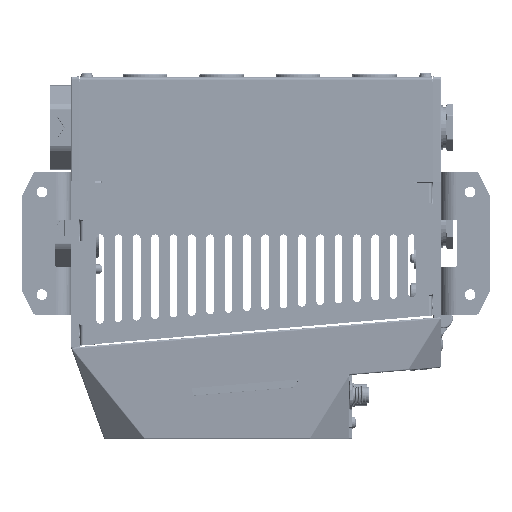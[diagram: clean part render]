
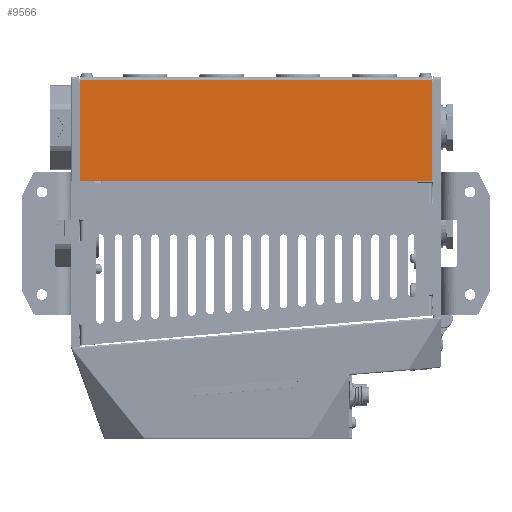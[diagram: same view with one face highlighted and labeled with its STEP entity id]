
A CAD part, left-side view. The second image highlights one B-rep face of the part: STEP entity #9566.
In plain terms, the highlighted planar face has unit normal (-1, 0, 0) as drawn and (0, -1, 0) by its records, which use the part's own axes.
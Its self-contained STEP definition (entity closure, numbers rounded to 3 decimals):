
#4104 = VECTOR ( 'NONE', #30052, 1000. ) ;
#9566 = ADVANCED_FACE ( 'NONE', ( #98870 ), #73887, .T. ) ;
#12485 = VERTEX_POINT ( 'NONE', #268266 ) ;
#15247 = VECTOR ( 'NONE', #314460, 1000. ) ;
#25626 = DIRECTION ( 'NONE',  ( 0., -1., 0. ) ) ;
#26007 = CIRCLE ( 'NONE', #202544, 1. ) ;
#26241 = VERTEX_POINT ( 'NONE', #43102 ) ;
#27774 = LINE ( 'NONE', #245137, #76926 ) ;
#30052 = DIRECTION ( 'NONE',  ( -1., 0., 0. ) ) ;
#38288 = CARTESIAN_POINT ( 'NONE',  ( -2., -84., -115. ) ) ;
#43102 = CARTESIAN_POINT ( 'NONE',  ( -68., -84., -114. ) ) ;
#43531 = CARTESIAN_POINT ( 'NONE',  ( -67., -84., -115. ) ) ;
#43669 = EDGE_CURVE ( 'NONE', #26241, #103016, #26007, .T. ) ;
#67571 = EDGE_CURVE ( 'NONE', #222490, #87950, #27774, .T. ) ;
#71039 = DIRECTION ( 'NONE',  ( 0., 0., -1. ) ) ;
#73887 = PLANE ( 'NONE',  #234798 ) ;
#75728 = ORIENTED_EDGE ( 'NONE', *, *, #293916, .T. ) ;
#76926 = VECTOR ( 'NONE', #104544, 1000. ) ;
#80588 = EDGE_CURVE ( 'NONE', #222490, #12485, #165597, .T. ) ;
#87950 = VERTEX_POINT ( 'NONE', #38288 ) ;
#93953 = VECTOR ( 'NONE', #71039, 1000. ) ;
#94288 = CARTESIAN_POINT ( 'NONE',  ( -68., -84., 115. ) ) ;
#94389 = DIRECTION ( 'NONE',  ( 1., 0., 0. ) ) ;
#95567 = LINE ( 'NONE', #206009, #15247 ) ;
#98870 = FACE_OUTER_BOUND ( 'NONE', #112099, .T. ) ;
#103016 = VERTEX_POINT ( 'NONE', #43531 ) ;
#104544 = DIRECTION ( 'NONE',  ( 0., 0., -1. ) ) ;
#112099 = EDGE_LOOP ( 'NONE', ( #351712, #286340, #190231, #208436, #125317, #75728 ) ) ;
#125317 = ORIENTED_EDGE ( 'NONE', *, *, #80588, .T. ) ;
#125905 = CIRCLE ( 'NONE', #290774, 1. ) ;
#165597 = LINE ( 'NONE', #274054, #4104 ) ;
#177968 = LINE ( 'NONE', #94288, #93953 ) ;
#190231 = ORIENTED_EDGE ( 'NONE', *, *, #247459, .F. ) ;
#191854 = DIRECTION ( 'NONE',  ( 0., -1., 0. ) ) ;
#202544 = AXIS2_PLACEMENT_3D ( 'NONE', #298631, #191854, #270109 ) ;
#206009 = CARTESIAN_POINT ( 'NONE',  ( 0., -84., -115. ) ) ;
#208436 = ORIENTED_EDGE ( 'NONE', *, *, #67571, .F. ) ;
#219050 = VERTEX_POINT ( 'NONE', #224707 ) ;
#222490 = VERTEX_POINT ( 'NONE', #318145 ) ;
#224707 = CARTESIAN_POINT ( 'NONE',  ( -68., -84., 114. ) ) ;
#234798 = AXIS2_PLACEMENT_3D ( 'NONE', #348072, #25626, #294608 ) ;
#245137 = CARTESIAN_POINT ( 'NONE',  ( -2., -84., 115. ) ) ;
#247459 = EDGE_CURVE ( 'NONE', #87950, #103016, #95567, .T. ) ;
#250477 = EDGE_CURVE ( 'NONE', #219050, #26241, #177968, .T. ) ;
#254659 = DIRECTION ( 'NONE',  ( 0., -1., 0. ) ) ;
#256401 = CARTESIAN_POINT ( 'NONE',  ( -67., -84., 114. ) ) ;
#268266 = CARTESIAN_POINT ( 'NONE',  ( -67., -84., 115. ) ) ;
#270109 = DIRECTION ( 'NONE',  ( 1., 0., 0. ) ) ;
#274054 = CARTESIAN_POINT ( 'NONE',  ( 0., -84., 115. ) ) ;
#286340 = ORIENTED_EDGE ( 'NONE', *, *, #43669, .T. ) ;
#290774 = AXIS2_PLACEMENT_3D ( 'NONE', #256401, #254659, #94389 ) ;
#293916 = EDGE_CURVE ( 'NONE', #12485, #219050, #125905, .T. ) ;
#294608 = DIRECTION ( 'NONE',  ( 1., 0., 0. ) ) ;
#298631 = CARTESIAN_POINT ( 'NONE',  ( -67., -84., -114. ) ) ;
#314460 = DIRECTION ( 'NONE',  ( -1., 0., 0. ) ) ;
#318145 = CARTESIAN_POINT ( 'NONE',  ( -2., -84., 115. ) ) ;
#348072 = CARTESIAN_POINT ( 'NONE',  ( 0., -84., 115. ) ) ;
#351712 = ORIENTED_EDGE ( 'NONE', *, *, #250477, .T. ) ;
